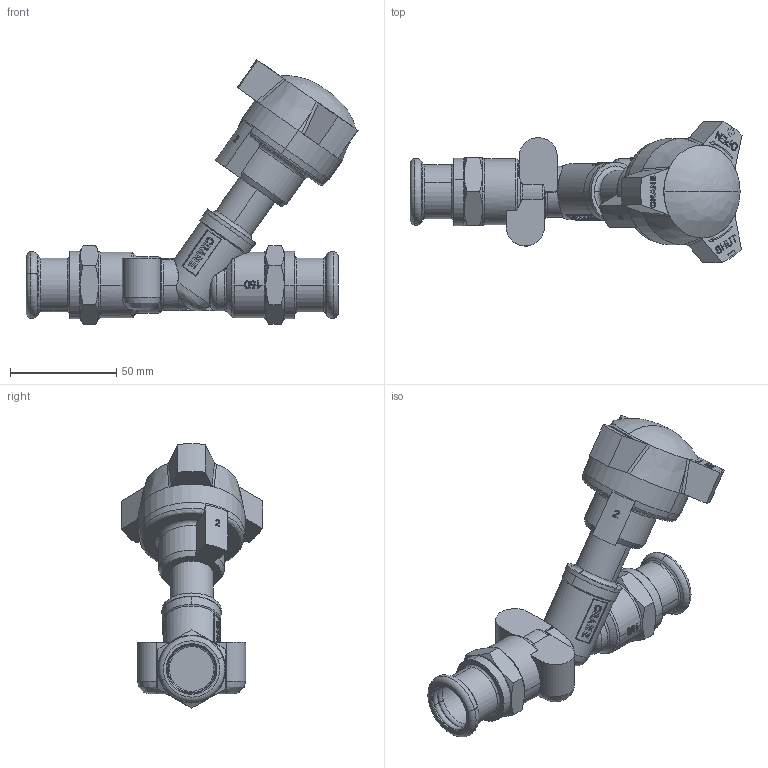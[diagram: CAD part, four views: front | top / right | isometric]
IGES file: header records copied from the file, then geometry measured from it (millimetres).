
Global section: file name: No Iges File Name specified; native system: AutoDesk Inventor R12.0; preprocessor: AutoDesk Inventor Iges Exporter R12.0; date: 20110823.162206; units: millimetre
Bounding box: 156.24 x 66.44 x 124.49 mm (x, y, z)
Volume: 188475 mm3; surface area: 38937.3 mm2
Topology: 1 solids, 3 shells, 856 faces, 2306 edges, 1507 vertices
Faces by surface type: bspline 380, plane 311, cylinder 66, cone 48, revolution 26, torus 23, sphere 2
